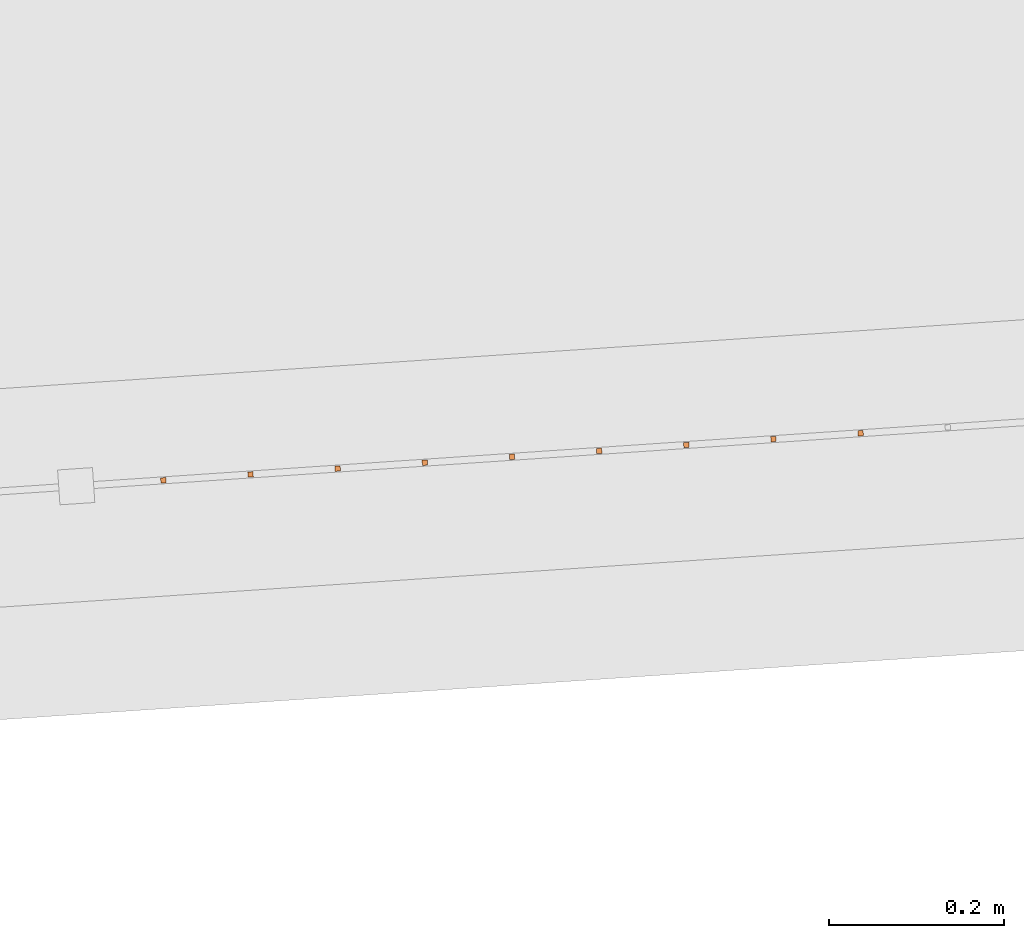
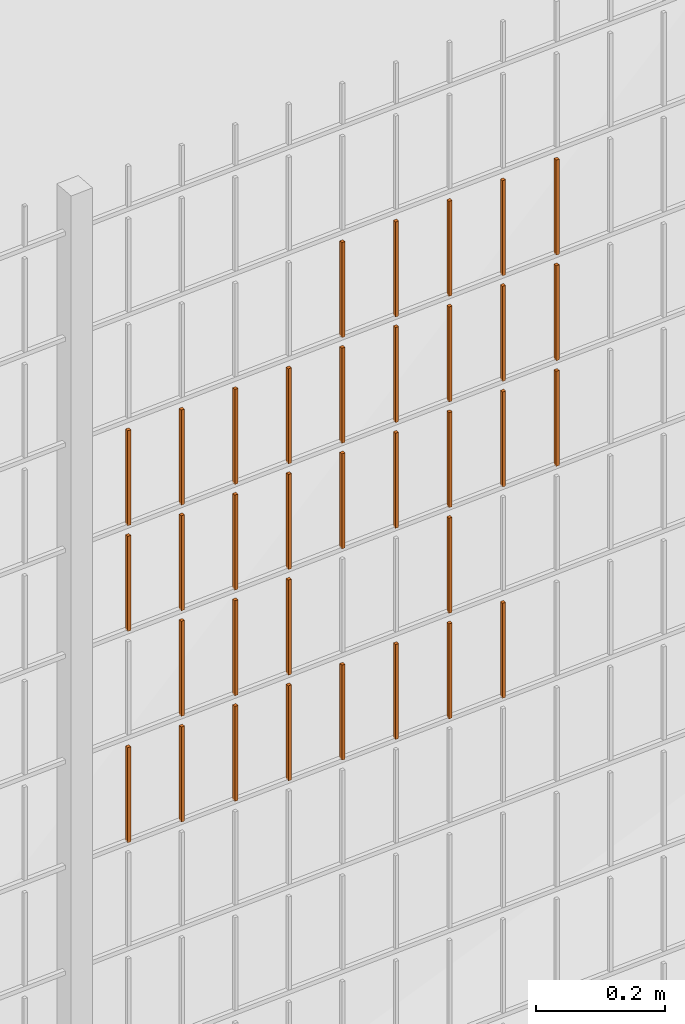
# One storey, part 69 of 1809: 35 proxies, 1 element without a shape of its own.
"""IFC2X3 building model written with IfcOpenShell, lengths in millimetres."""

import ifcopenshell
import ifcopenshell.guid

model = None  # the IFC model being written
_history = None  # IfcOwnerHistory: only IFC2X3 demands one
_inside = {}  # id of a spatial element -> (the spatial element, [elements in it])
_under = {}  # id of a project, library or spatial element -> (it, [spatial elements below it])
_declared = {}  # id of a project -> (the project, [libraries it declares])
_typed = {}  # id of a type object -> (the type object, [elements of that type])
_made_of = {}  # id of a material, layer set ... -> (it, [elements and type objects made of it])


def new_model(schema):
    """Start an empty IFC model of exactly this schema.

    Asked for "IFC4X3", IfcOpenShell would pick the latest addendum, in which some entities
    have other attributes; the version numbers below select the first issue.
    IFC2X3 requires an IfcOwnerHistory on every rooted entity: one is made here for all.
    """
    global model, _history
    if schema == "IFC4X3":
        model = ifcopenshell.file(schema_version=(4, 3, 0, 0))
    else:
        model = ifcopenshell.file(schema=schema)
    _inside.clear()
    _under.clear()
    _declared.clear()
    _typed.clear()
    _made_of.clear()
    _history = None
    if model.schema == "IFC2X3":
        org = make("IfcOrganization", Name="unknown")
        user = make(
            "IfcPersonAndOrganization",
            ThePerson=make("IfcPerson", FamilyName="unknown"),
            TheOrganization=org,
        )
        app = make(
            "IfcApplication",
            ApplicationDeveloper=org,
            Version="unknown",
            ApplicationFullName="unknown",
            ApplicationIdentifier="unknown",
        )
        _history = make(
            "IfcOwnerHistory",
            OwningUser=user,
            OwningApplication=app,
            ChangeAction="ADDED",
            CreationDate=0,
        )
    return model


def make(cls, **values):
    """One entity of the class cls with the attributes given. An attribute that is None is left unset."""
    return model.create_entity(
        cls, **{name: value for name, value in values.items() if value is not None}
    )


def entity(cls, *values):
    """Any entity or typed value of the class cls, its attributes in the order of the schema. None: left unset."""
    e = model.create_entity(cls)
    for i, value in enumerate(values):
        if value is not None:
            e[i] = value
    return e


def rooted(cls, **values):
    """An entity with a GlobalId (a new one), such as an element, a storey or a relation."""
    return make(cls, GlobalId=ifcopenshell.guid.new(), OwnerHistory=_history, **values)


def si_unit(unit_type, name, prefix=None):
    """IfcSIUnit, for example si_unit("LENGTHUNIT", "METRE", prefix="MILLI")."""
    return make("IfcSIUnit", UnitType=unit_type, Prefix=prefix, Name=name)


def converted_unit(unit_type, name, factor, base, dimensions=None, offset=None):
    """IfcConversionBasedUnit, such as the inch: factor (a typed value) times the base unit."""
    return make(
        "IfcConversionBasedUnit"
        if offset is None
        else "IfcConversionBasedUnitWithOffset",
        ConversionOffset=offset,
        Dimensions=None
        if dimensions is None
        else entity("IfcDimensionalExponents", *dimensions),
        UnitType=unit_type,
        Name=name,
        ConversionFactor=make(
            "IfcMeasureWithUnit", ValueComponent=factor, UnitComponent=base
        ),
    )


def derived_unit(unit_type, elements):
    """IfcDerivedUnit: a product of units, each with its exponent."""
    return make(
        "IfcDerivedUnit",
        Elements=[
            make("IfcDerivedUnitElement", Unit=unit, Exponent=power)
            for unit, power in elements
        ],
        UnitType=unit_type,
    )


def money_unit(currency):
    """IfcMonetaryUnit."""
    return make("IfcMonetaryUnit", Currency=currency)


def assignment(units):
    """IfcUnitAssignment: the units of a project."""
    return None if units is None else make("IfcUnitAssignment", Units=units)


def point(xyz):
    """IfcCartesianPoint."""
    return None if xyz is None else make("IfcCartesianPoint", Coordinates=xyz)


def direction(xyz):
    """IfcDirection."""
    return None if xyz is None else make("IfcDirection", DirectionRatios=xyz)


def frame(location, z_axis=None, x_axis=None):
    """IfcAxis2Placement3D, a coordinate frame: its origin and axes. An axis left out is left unset."""
    return make(
        "IfcAxis2Placement3D",
        Location=point(location),
        Axis=direction(z_axis),
        RefDirection=direction(x_axis),
    )


def origin_with_axes():
    """The frame at (0, 0, 0) with the z axis (0, 0, 1) and the x axis (1, 0, 0) written out."""
    return frame((0.0, 0.0, 0.0), z_axis=(0.0, 0.0, 1.0), x_axis=(1.0, 0.0, 0.0))


def place(relative_to, where):
    """IfcLocalPlacement: puts the frame where relative to a parent placement (None: the world)."""
    return make(
        "IfcLocalPlacement", PlacementRelTo=relative_to, RelativePlacement=where
    )


def context(
    kind, dimensions, precision=None, world=None, true_north=None, identifier=None
):
    """IfcGeometricRepresentationContext, for example the 3D "Model" context."""
    return make(
        "IfcGeometricRepresentationContext",
        ContextIdentifier=identifier,
        ContextType=kind,
        CoordinateSpaceDimension=dimensions,
        Precision=precision,
        WorldCoordinateSystem=world,
        TrueNorth=true_north,
    )


def subcontext(parent, identifier, kind, view, scale=None):
    """IfcGeometricRepresentationSubContext, for example "Body" below "Model"."""
    return make(
        "IfcGeometricRepresentationSubContext",
        ContextIdentifier=identifier,
        ContextType=kind,
        ParentContext=parent,
        TargetScale=scale,
        TargetView=view,
    )


def project(units=None, contexts=None):
    """IfcProject with its units and contexts."""
    return rooted(
        "IfcProject",
        Name="project",
        RepresentationContexts=contexts,
        UnitsInContext=assignment(units),
    )


def spatial(cls, under=None, at=None, **own):
    """A site, building, storey or space (cls), placed at a placement, below another one or the project."""
    s = rooted(cls, ObjectPlacement=at, **own)
    if under is not None:
        _under.setdefault(under.id(), (under, []))[1].append(s)
    return s


def faces_of(points, faces, orient=None, outer=None):
    """IfcFace entities. A face is a list of loops; a loop is a list of indices into points, from 0.

    orient and outer hold one flag for each loop. By default every Orientation is true, the
    first loop of a face is its IfcFaceOuterBound and the others are IfcFaceBound.
    """
    made = []
    for i, loops in enumerate(faces):
        bounds = []
        for j, loop in enumerate(loops):
            is_outer = j == 0 if outer is None else outer[i][j]
            bounds.append(
                make(
                    "IfcFaceOuterBound" if is_outer else "IfcFaceBound",
                    Bound=make("IfcPolyLoop", Polygon=[points[k] for k in loop]),
                    Orientation=True if orient is None else orient[i][j],
                )
            )
        made.append(make("IfcFace", Bounds=bounds))
    return made


def faceted_brep(points, faces, orient=None, outer=None, voids=None):
    """IfcFacetedBrep: a solid bounded by flat faces; with voids (closed shells), ...WithVoids."""
    shared = [point(p) for p in points]
    hull = make("IfcClosedShell", CfsFaces=faces_of(shared, faces, orient, outer))
    if voids is None:
        return make("IfcFacetedBrep", Outer=hull)
    return make(
        "IfcFacetedBrepWithVoids",
        Outer=hull,
        Voids=[
            make(cls, CfsFaces=faces_of(shared, fs, o, b)) for cls, fs, o, b in voids
        ],
    )


def shape(context_of_items, identifier, shape_type, items):
    """IfcShapeRepresentation: the items that make up one representation, for example the "Body"."""
    return make(
        "IfcShapeRepresentation",
        ContextOfItems=context_of_items,
        RepresentationIdentifier=identifier,
        RepresentationType=shape_type,
        Items=items,
    )


def source(mapping_origin, context_of_items, identifier, shape_type, items):
    """IfcRepresentationMap: a shape defined once, which mapped items show again and again."""
    return make(
        "IfcRepresentationMap",
        MappingOrigin=mapping_origin,
        MappedRepresentation=shape(context_of_items, identifier, shape_type, items),
    )


def transform(
    local_origin,
    x_axis=None,
    y_axis=None,
    z_axis=None,
    scale=None,
    scale2=None,
    scale3=None,
    uniform=True,
):
    """IfcCartesianTransformationOperator3D, or its non-uniform kind. x_axis, y_axis, z_axis: its Axis1, 2, 3."""
    if uniform:
        return make(
            "IfcCartesianTransformationOperator3D",
            Axis1=direction(x_axis),
            Axis2=direction(y_axis),
            LocalOrigin=point(local_origin),
            Scale=scale,
            Axis3=direction(z_axis),
        )
    return make(
        "IfcCartesianTransformationOperator3DnonUniform",
        Axis1=direction(x_axis),
        Axis2=direction(y_axis),
        LocalOrigin=point(local_origin),
        Scale=scale,
        Axis3=direction(z_axis),
        Scale2=scale2,
        Scale3=scale3,
    )


def mapped(mapping_source, mapping_target):
    """IfcMappedItem: shows the shape of a source again, moved by a transform."""
    return make(
        "IfcMappedItem", MappingSource=mapping_source, MappingTarget=mapping_target
    )


def material(Name=None, Category=None):
    """IfcMaterial."""
    return make("IfcMaterial", Name=Name, Category=Category)


def made_of(thing, what):
    """Note that an element or type object is made of a material, layer set ...; save() writes the relation."""
    if what is not None:
        _made_of.setdefault(what.id(), (what, []))[1].append(thing)
    return thing


def type_object(cls, material=None, **own):
    """A type object (cls), such as IfcWallType, which elements share."""
    return made_of(rooted(cls, **own), material)


def element(
    cls,
    number,
    at=None,
    inside=None,
    cuts=None,
    type_object=None,
    material=None,
    context=None,
    identifier="Body",
    shape_type=None,
    held_by="IfcProductDefinitionShape",
    body=None,
    shapes=None,
    **own,
):
    """One element of the class cls, such as IfcWall. Its Tag is "e" and its number.

    at: its placement. inside: the storey or other place that contains it. cuts: it is an
    opening in that element (IfcRelVoidsElement). A single representation is given by context,
    identifier, shape_type and body (its items); several are given by shapes. held_by: the class
    of the entity that holds the representations. save() writes the other relations.
    """
    e = rooted(cls, Tag="e%d" % number, ObjectPlacement=at, **own)
    if body is not None:
        shapes = [shape(context, identifier, shape_type, body)]
    if shapes is not None:
        e.Representation = make(held_by, Representations=shapes)
    if inside is not None:
        _inside.setdefault(inside.id(), (inside, []))[1].append(e)
    if cuts is not None:
        rooted(
            "IfcRelVoidsElement", RelatingBuildingElement=cuts, RelatedOpeningElement=e
        )
    if type_object is not None:
        _typed.setdefault(type_object.id(), (type_object, []))[1].append(e)
    return made_of(e, material)


def aggregate(whole, parts):
    """IfcRelAggregates: a whole, such as a stair, and the parts it consists of."""
    return rooted("IfcRelAggregates", RelatingObject=whole, RelatedObjects=parts)


def save(model, path):
    """Write the relations noted so far, then the file.

    IfcRelAggregates (storeys below a building ...), IfcRelContainedInSpatialStructure (elements
    in a storey), IfcRelDefinesByType, IfcRelAssociatesMaterial and IfcRelDeclares: one each for
    every whole, place, type object, material and project.
    """
    for whole, parts in _under.values():
        aggregate(whole, parts)
    for where, things in _inside.values():
        rooted(
            "IfcRelContainedInSpatialStructure",
            RelatedElements=things,
            RelatingStructure=where,
        )
    for kind, things in _typed.values():
        rooted("IfcRelDefinesByType", RelatedObjects=things, RelatingType=kind)
    for what, things in _made_of.values():
        rooted("IfcRelAssociatesMaterial", RelatedObjects=things, RelatingMaterial=what)
    for by, libraries in _declared.values():
        rooted("IfcRelDeclares", RelatingContext=by, RelatedDefinitions=libraries)
    model.write(path)


model = new_model("IFC2X3")

# Units and contexts
model_context = context("Model", 3, precision=0.01, world=origin_with_axes(), true_north=direction((0.0, 1.0)))
body_context = subcontext(model_context, "Body", "Model", "MODEL_VIEW")
ifc_project = project(units=[si_unit("LENGTHUNIT", "METRE", prefix="MILLI"), si_unit("AREAUNIT", "SQUARE_METRE"), si_unit("VOLUMEUNIT", "CUBIC_METRE"), converted_unit("PLANEANGLEUNIT", "DEGREE", entity("IfcPlaneAngleMeasure", 0.0174532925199), si_unit("PLANEANGLEUNIT", "RADIAN"), dimensions=[0, 0, 0, 0, 0, 0, 0]), si_unit("SOLIDANGLEUNIT", "STERADIAN"), money_unit("EUR"), converted_unit("TIMEUNIT", "Year", entity("IfcTimeMeasure", 31556926.0), si_unit("TIMEUNIT", "SECOND"), dimensions=[0, 0, 1, 0, 0, 0, 0]), si_unit("MASSUNIT", "GRAM", prefix="KILO"), si_unit("THERMODYNAMICTEMPERATUREUNIT", "DEGREE_CELSIUS"), si_unit("LUMINOUSINTENSITYUNIT", "LUMEN"), si_unit("ENERGYUNIT", "JOULE", prefix="MEGA"), derived_unit("THERMALCONDUCTANCEUNIT", [(si_unit("POWERUNIT", "WATT"), 1), (si_unit("LENGTHUNIT", "METRE"), -1), (si_unit("THERMODYNAMICTEMPERATUREUNIT", "KELVIN"), -1)]), derived_unit("SPECIFICHEATCAPACITYUNIT", [(si_unit("ENERGYUNIT", "JOULE"), 1), (si_unit("MASSUNIT", "GRAM", prefix="KILO"), -1), (si_unit("THERMODYNAMICTEMPERATUREUNIT", "KELVIN"), -1)]), derived_unit("MASSDENSITYUNIT", [(si_unit("MASSUNIT", "GRAM", prefix="KILO"), 1), (si_unit("VOLUMEUNIT", "CUBIC_METRE"), -1)])], contexts=[model_context])

# Site, building, storey
site_placement = place(None, origin_with_axes())
site = spatial("IfcSite", under=ifc_project, at=site_placement, Name="Politse- ja Piirivalveameti ning Päästeameti ühishoone", CompositionType="ELEMENT")
building_placement = place(site_placement, origin_with_axes())
building = spatial("IfcBuilding", under=site, at=building_placement, Name="Politse- ja Piirivalveameti ning Päästeameti ühishoone", CompositionType="ELEMENT")
storey_placement = place(building_placement, origin_with_axes())
storey = spatial("IfcBuildingStorey", under=building, at=storey_placement, Name="Esimene korrus", CompositionType="ELEMENT", Elevation=0.0)

# Proxies
building_element_proxy_type_1 = type_object("IfcBuildingElementProxyType", Name="Railing Type", PredefinedType="NOTDEFINED")
proxy_1_placement = place(storey_placement, frame((89252.001212, -29183.4766571, 203.661247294), z_axis=(0.0, 0.0, 1.0), x_axis=(1.0, 0.0, 0.0)))
proxy_1 = element("IfcBuildingElementProxy", 1, at=proxy_1_placement, inside=storey, type_object=building_element_proxy_type_1, Name="PIIRDEAED")
ifc_material = material(Name="ET-03_Raud")
building_element_proxy_type_2 = type_object("IfcBuildingElementProxyType", Name="IfcBuildingElementProxy", PredefinedType="NOTDEFINED")
shared_shape_1 = source(origin_with_axes(), body_context, "Body", "Brep", [
    faceted_brep([(3.0, 3.0, -0.000752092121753), (-3.0, 3.0, -0.000752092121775), (-3.0, 3.0, 179.99926046), (3.0, 3.0, 179.99926046), (3.0, -3.0, 0.000752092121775), (-3.0, -3.0, 0.000752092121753), (-3.0, -3.0, 180.000764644), (3.0, -3.0, 180.000764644)], [[[0, 1, 2, 3]], [[0, 4, 5, 1]], [[1, 5, 6, 2]], [[3, 2, 6, 7]], [[4, 0, 3, 7]], [[5, 4, 7, 6]]]),
])
proxy_2_placement = place(proxy_1_placement, frame((-106982.911336, -24524.0666834, 1200.35293642), z_axis=(0.0, 0.0, 1.0), x_axis=(1.0, 0.0, 0.0)))
proxy_2 = element("IfcBuildingElementProxy", 2, at=proxy_2_placement, type_object=building_element_proxy_type_2, material=ifc_material, Name="BALUSTER - 001", context=body_context, shape_type="MappedRepresentation", body=[
    mapped(shared_shape_1, transform((0.0, 0.0, 0.0), x_axis=(-0.0673926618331, 0.997726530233, 0.0), y_axis=(-0.997726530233, -0.0673926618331, 0.0), z_axis=(0.0, 0.0, 1.0))),
])
shared_shape_2 = source(origin_with_axes(), body_context, "Body", "Brep", [
    faceted_brep([(3.0, 3.0, -0.000752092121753), (-3.0, 3.0, -0.000752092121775), (-3.0, 3.0, 179.99926046), (3.0, 3.0, 179.99926046), (3.0, -3.0, 0.000752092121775), (-3.0, -3.0, 0.000752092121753), (-3.0, -3.0, 180.000764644), (3.0, -3.0, 180.000764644)], [[[0, 1, 2, 3]], [[0, 4, 5, 1]], [[1, 5, 6, 2]], [[3, 2, 6, 7]], [[4, 0, 3, 7]], [[5, 4, 7, 6]]]),
])
proxy_3_placement = place(proxy_1_placement, frame((-106982.911336, -24524.0666834, 1400.35293642), z_axis=(0.0, 0.0, 1.0), x_axis=(1.0, 0.0, 0.0)))
proxy_3 = element("IfcBuildingElementProxy", 3, at=proxy_3_placement, type_object=building_element_proxy_type_2, material=ifc_material, Name="BALUSTER - 001", context=body_context, shape_type="MappedRepresentation", body=[
    mapped(shared_shape_2, transform((0.0, 0.0, 0.0), x_axis=(-0.0673926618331, 0.997726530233, 0.0), y_axis=(-0.997726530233, -0.0673926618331, 0.0), z_axis=(0.0, 0.0, 1.0))),
])
shared_shape_3 = source(origin_with_axes(), body_context, "Body", "Brep", [
    faceted_brep([(3.0, 3.0, -0.000752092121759), (-3.0, 3.0, -0.000752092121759), (-3.0, 3.0, 179.99926046), (3.0, 3.0, 179.99926046), (3.0, -3.0, 0.000752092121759), (-3.0, -3.0, 0.000752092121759), (-3.0, -3.0, 180.000764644), (3.0, -3.0, 180.000764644)], [[[0, 1, 2, 3]], [[0, 4, 5, 1]], [[1, 5, 6, 2]], [[3, 2, 6, 7]], [[4, 0, 3, 7]], [[5, 4, 7, 6]]]),
])
proxy_4_placement = place(proxy_1_placement, frame((-106683.593377, -24503.8488849, 1200.42814563), z_axis=(0.0, 0.0, 1.0), x_axis=(1.0, 0.0, 0.0)))
proxy_4 = element("IfcBuildingElementProxy", 4, at=proxy_4_placement, type_object=building_element_proxy_type_2, material=ifc_material, Name="BALUSTER - 001", context=body_context, shape_type="MappedRepresentation", body=[
    mapped(shared_shape_3, transform((0.0, 0.0, 0.0), x_axis=(-0.0673926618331, 0.997726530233, 0.0), y_axis=(-0.997726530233, -0.0673926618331, 0.0), z_axis=(0.0, 0.0, 1.0))),
])
shared_shape_4 = source(origin_with_axes(), body_context, "Body", "Brep", [
    faceted_brep([(3.0, 3.0, -0.000752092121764), (-3.0, 3.0, -0.000752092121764), (-3.0, 3.0, 179.99926046), (3.0, 3.0, 179.99926046), (3.0, -3.0, 0.000752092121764), (-3.0, -3.0, 0.000752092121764), (-3.0, -3.0, 180.000764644), (3.0, -3.0, 180.000764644)], [[[0, 1, 2, 3]], [[0, 4, 5, 1]], [[1, 5, 6, 2]], [[3, 2, 6, 7]], [[4, 0, 3, 7]], [[5, 4, 7, 6]]]),
])
proxy_5_placement = place(proxy_1_placement, frame((-106583.820724, -24497.1096187, 800.453215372), z_axis=(0.0, 0.0, 1.0), x_axis=(1.0, 0.0, 0.0)))
proxy_5 = element("IfcBuildingElementProxy", 5, at=proxy_5_placement, type_object=building_element_proxy_type_2, material=ifc_material, Name="BALUSTER - 001", context=body_context, shape_type="MappedRepresentation", body=[
    mapped(shared_shape_4, transform((0.0, 0.0, 0.0), x_axis=(-0.0673926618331, 0.997726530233, 0.0), y_axis=(-0.997726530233, -0.0673926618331, 0.0), z_axis=(0.0, 0.0, 1.0))),
])
proxy_6_placement = place(proxy_1_placement, frame((-106883.138683, -24517.3274172, 800.378006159), z_axis=(0.0, 0.0, 1.0), x_axis=(1.0, 0.0, 0.0)))
proxy_6 = element("IfcBuildingElementProxy", 6, at=proxy_6_placement, type_object=building_element_proxy_type_2, material=ifc_material, Name="BALUSTER - 001", context=body_context, shape_type="MappedRepresentation", body=[
    mapped(shared_shape_4, transform((0.0, 0.0, 0.0), x_axis=(-0.0673926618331, 0.997726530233, 0.0), y_axis=(-0.997726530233, -0.0673926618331, 0.0), z_axis=(0.0, 0.0, 1.0))),
])
shared_shape_5 = source(origin_with_axes(), body_context, "Body", "Brep", [
    faceted_brep([(3.0, 3.0, -0.000752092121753), (-3.0, 3.0, -0.000752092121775), (-3.0, 3.0, 179.99926046), (3.0, 3.0, 179.99926046), (3.0, -3.0, 0.000752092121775), (-3.0, -3.0, 0.000752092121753), (-3.0, -3.0, 180.000764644), (3.0, -3.0, 180.000764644)], [[[0, 1, 2, 3]], [[0, 4, 5, 1]], [[1, 5, 6, 2]], [[3, 2, 6, 7]], [[4, 0, 3, 7]], [[5, 4, 7, 6]]]),
])
proxy_7_placement = place(proxy_1_placement, frame((-106982.911336, -24524.0666834, 800.352936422), z_axis=(0.0, 0.0, 1.0), x_axis=(1.0, 0.0, 0.0)))
proxy_7 = element("IfcBuildingElementProxy", 7, at=proxy_7_placement, type_object=building_element_proxy_type_2, material=ifc_material, Name="BALUSTER - 001", context=body_context, shape_type="MappedRepresentation", body=[
    mapped(shared_shape_5, transform((0.0, 0.0, 0.0), x_axis=(-0.0673926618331, 0.997726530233, 0.0), y_axis=(-0.997726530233, -0.0673926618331, 0.0), z_axis=(0.0, 0.0, 1.0))),
])
proxy_8_placement = place(proxy_1_placement, frame((-106883.138683, -24517.3274172, 1200.37800616), z_axis=(0.0, 0.0, 1.0), x_axis=(1.0, 0.0, 0.0)))
proxy_8 = element("IfcBuildingElementProxy", 8, at=proxy_8_placement, type_object=building_element_proxy_type_2, material=ifc_material, Name="BALUSTER - 001", context=body_context, shape_type="MappedRepresentation", body=[
    mapped(shared_shape_5, transform((0.0, 0.0, 0.0), x_axis=(-0.0673926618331, 0.997726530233, 0.0), y_axis=(-0.997726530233, -0.0673926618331, 0.0), z_axis=(0.0, 0.0, 1.0))),
])
shared_shape_6 = source(origin_with_axes(), body_context, "Body", "Brep", [
    faceted_brep([(3.0, 3.0, -0.000752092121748), (-3.0, 3.0, -0.00075209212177), (-3.0, 3.0, 179.99926046), (3.0, 3.0, 179.99926046), (3.0, -3.0, 0.00075209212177), (-3.0, -3.0, 0.000752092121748), (-3.0, -3.0, 180.000764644), (3.0, -3.0, 180.000764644)], [[[0, 1, 2, 3]], [[0, 4, 5, 1]], [[1, 5, 6, 2]], [[3, 2, 6, 7]], [[4, 0, 3, 7]], [[5, 4, 7, 6]]]),
])
proxy_9_placement = place(proxy_1_placement, frame((-106683.593377, -24503.8488849, 800.428145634), z_axis=(0.0, 0.0, 1.0), x_axis=(1.0, 0.0, 0.0)))
proxy_9 = element("IfcBuildingElementProxy", 9, at=proxy_9_placement, type_object=building_element_proxy_type_2, material=ifc_material, Name="BALUSTER - 001", context=body_context, shape_type="MappedRepresentation", body=[
    mapped(shared_shape_6, transform((0.0, 0.0, 0.0), x_axis=(-0.0673926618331, 0.997726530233, 0.0), y_axis=(-0.997726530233, -0.0673926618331, 0.0), z_axis=(0.0, 0.0, 1.0))),
])
proxy_10_placement = place(proxy_1_placement, frame((-106783.36603, -24510.5881511, 1200.4030759), z_axis=(0.0, 0.0, 1.0), x_axis=(1.0, 0.0, 0.0)))
proxy_10 = element("IfcBuildingElementProxy", 10, at=proxy_10_placement, type_object=building_element_proxy_type_2, material=ifc_material, Name="BALUSTER - 001", context=body_context, shape_type="MappedRepresentation", body=[
    mapped(shared_shape_6, transform((0.0, 0.0, 0.0), x_axis=(-0.0673926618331, 0.997726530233, 0.0), y_axis=(-0.997726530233, -0.0673926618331, 0.0), z_axis=(0.0, 0.0, 1.0))),
])
shared_shape_7 = source(origin_with_axes(), body_context, "Body", "Brep", [
    faceted_brep([(3.0, 3.0, -0.000752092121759), (-3.0, 3.0, -0.000752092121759), (-3.0, 3.0, 179.99926046), (3.0, 3.0, 179.99926046), (3.0, -3.0, 0.000752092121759), (-3.0, -3.0, 0.000752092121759), (-3.0, -3.0, 180.000764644), (3.0, -3.0, 180.000764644)], [[[0, 1, 2, 3]], [[0, 4, 5, 1]], [[1, 5, 6, 2]], [[3, 2, 6, 7]], [[4, 0, 3, 7]], [[5, 4, 7, 6]]]),
])
proxy_11_placement = place(proxy_1_placement, frame((-106184.730112, -24470.152554, 1200.55349432), z_axis=(0.0, 0.0, 1.0), x_axis=(1.0, 0.0, 0.0)))
proxy_11 = element("IfcBuildingElementProxy", 11, at=proxy_11_placement, type_object=building_element_proxy_type_2, material=ifc_material, Name="BALUSTER - 001", context=body_context, shape_type="MappedRepresentation", body=[
    mapped(shared_shape_7, transform((0.0, 0.0, 0.0), x_axis=(-0.0673926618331, 0.997726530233, 0.0), y_axis=(-0.997726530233, -0.0673926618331, 0.0), z_axis=(0.0, 0.0, 1.0))),
])
shared_shape_8 = source(origin_with_axes(), body_context, "Body", "Brep", [
    faceted_brep([(3.0, 3.0, -0.000752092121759), (-3.0, 3.0, -0.000752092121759), (-3.0, 3.0, 179.99926046), (3.0, 3.0, 179.99926046), (3.0, -3.0, 0.000752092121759), (-3.0, -3.0, 0.000752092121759), (-3.0, -3.0, 180.000764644), (3.0, -3.0, 180.000764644)], [[[0, 1, 2, 3]], [[0, 4, 5, 1]], [[1, 5, 6, 2]], [[3, 2, 6, 7]], [[4, 0, 3, 7]], [[5, 4, 7, 6]]]),
])
proxy_12_placement = place(proxy_1_placement, frame((-106184.730112, -24470.152554, 1400.55349432), z_axis=(0.0, 0.0, 1.0), x_axis=(1.0, 0.0, 0.0)))
proxy_12 = element("IfcBuildingElementProxy", 12, at=proxy_12_placement, type_object=building_element_proxy_type_2, material=ifc_material, Name="BALUSTER - 001", context=body_context, shape_type="MappedRepresentation", body=[
    mapped(shared_shape_8, transform((0.0, 0.0, 0.0), x_axis=(-0.0673926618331, 0.997726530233, 0.0), y_axis=(-0.997726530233, -0.0673926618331, 0.0), z_axis=(0.0, 0.0, 1.0))),
])
proxy_13_placement = place(proxy_1_placement, frame((-106184.730112, -24470.152554, 1600.55349432), z_axis=(0.0, 0.0, 1.0), x_axis=(1.0, 0.0, 0.0)))
proxy_13 = element("IfcBuildingElementProxy", 13, at=proxy_13_placement, type_object=building_element_proxy_type_2, material=ifc_material, Name="BALUSTER - 001", context=body_context, shape_type="MappedRepresentation", body=[
    mapped(shared_shape_8, transform((0.0, 0.0, 0.0), x_axis=(-0.0673926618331, 0.997726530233, 0.0), y_axis=(-0.997726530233, -0.0673926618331, 0.0), z_axis=(0.0, 0.0, 1.0))),
])
shared_shape_9 = source(origin_with_axes(), body_context, "Body", "Brep", [
    faceted_brep([(3.0, 3.0, -0.000752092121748), (-3.0, 3.0, -0.00075209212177), (-3.0, 3.0, 179.99926046), (3.0, 3.0, 179.99926046), (3.0, -3.0, 0.00075209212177), (-3.0, -3.0, 0.000752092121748), (-3.0, -3.0, 180.000764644), (3.0, -3.0, 180.000764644)], [[[0, 1, 2, 3]], [[0, 4, 5, 1]], [[1, 5, 6, 2]], [[3, 2, 6, 7]], [[4, 0, 3, 7]], [[5, 4, 7, 6]]]),
])
proxy_14_placement = place(proxy_1_placement, frame((-106783.36603, -24510.5881511, 1400.4030759), z_axis=(0.0, 0.0, 1.0), x_axis=(1.0, 0.0, 0.0)))
proxy_14 = element("IfcBuildingElementProxy", 14, at=proxy_14_placement, type_object=building_element_proxy_type_2, material=ifc_material, Name="BALUSTER - 001", context=body_context, shape_type="MappedRepresentation", body=[
    mapped(shared_shape_9, transform((0.0, 0.0, 0.0), x_axis=(-0.0673926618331, 0.997726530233, 0.0), y_axis=(-0.997726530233, -0.0673926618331, 0.0), z_axis=(0.0, 0.0, 1.0))),
])
shared_shape_10 = source(origin_with_axes(), body_context, "Body", "Brep", [
    faceted_brep([(3.0, 3.0, -0.000752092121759), (-3.0, 3.0, -0.000752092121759), (-3.0, 3.0, 179.99926046), (3.0, 3.0, 179.99926046), (3.0, -3.0, 0.000752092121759), (-3.0, -3.0, 0.000752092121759), (-3.0, -3.0, 180.000764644), (3.0, -3.0, 180.000764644)], [[[0, 1, 2, 3]], [[0, 4, 5, 1]], [[1, 5, 6, 2]], [[3, 2, 6, 7]], [[4, 0, 3, 7]], [[5, 4, 7, 6]]]),
])
proxy_15_placement = place(proxy_1_placement, frame((-106683.593377, -24503.8488849, 1400.42814563), z_axis=(0.0, 0.0, 1.0), x_axis=(1.0, 0.0, 0.0)))
proxy_15 = element("IfcBuildingElementProxy", 15, at=proxy_15_placement, type_object=building_element_proxy_type_2, material=ifc_material, Name="BALUSTER - 001", context=body_context, shape_type="MappedRepresentation", body=[
    mapped(shared_shape_10, transform((0.0, 0.0, 0.0), x_axis=(-0.0673926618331, 0.997726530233, 0.0), y_axis=(-0.997726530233, -0.0673926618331, 0.0), z_axis=(0.0, 0.0, 1.0))),
])
shared_shape_11 = source(origin_with_axes(), body_context, "Body", "Brep", [
    faceted_brep([(3.0, 3.0, -0.000752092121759), (-3.0, 3.0, -0.000752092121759), (-3.0, 3.0, 179.99926046), (3.0, 3.0, 179.99926046), (3.0, -3.0, 0.000752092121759), (-3.0, -3.0, 0.000752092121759), (-3.0, -3.0, 180.000764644), (3.0, -3.0, 180.000764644)], [[[0, 1, 2, 3]], [[0, 4, 5, 1]], [[1, 5, 6, 2]], [[3, 2, 6, 7]], [[4, 0, 3, 7]], [[5, 4, 7, 6]]]),
])
proxy_16_placement = place(proxy_1_placement, frame((-106583.820724, -24497.1096187, 1200.45321537), z_axis=(0.0, 0.0, 1.0), x_axis=(1.0, 0.0, 0.0)))
proxy_16 = element("IfcBuildingElementProxy", 16, at=proxy_16_placement, type_object=building_element_proxy_type_2, material=ifc_material, Name="BALUSTER - 001", context=body_context, shape_type="MappedRepresentation", body=[
    mapped(shared_shape_11, transform((0.0, 0.0, 0.0), x_axis=(-0.0673926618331, 0.997726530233, 0.0), y_axis=(-0.997726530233, -0.0673926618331, 0.0), z_axis=(0.0, 0.0, 1.0))),
])
shared_shape_12 = source(origin_with_axes(), body_context, "Body", "Brep", [
    faceted_brep([(3.0, 3.0, -0.000752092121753), (-3.0, 3.0, -0.000752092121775), (-3.0, 3.0, 179.99926046), (3.0, 3.0, 179.99926046), (3.0, -3.0, 0.000752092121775), (-3.0, -3.0, 0.000752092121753), (-3.0, -3.0, 180.000764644), (3.0, -3.0, 180.000764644)], [[[0, 1, 2, 3]], [[0, 4, 5, 1]], [[1, 5, 6, 2]], [[3, 2, 6, 7]], [[4, 0, 3, 7]], [[5, 4, 7, 6]]]),
])
proxy_17_placement = place(proxy_1_placement, frame((-106284.502765, -24476.8918201, 1200.52842458), z_axis=(0.0, 0.0, 1.0), x_axis=(1.0, 0.0, 0.0)))
proxy_17 = element("IfcBuildingElementProxy", 17, at=proxy_17_placement, type_object=building_element_proxy_type_2, material=ifc_material, Name="BALUSTER - 001", context=body_context, shape_type="MappedRepresentation", body=[
    mapped(shared_shape_12, transform((0.0, 0.0, 0.0), x_axis=(-0.0673926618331, 0.997726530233, 0.0), y_axis=(-0.997726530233, -0.0673926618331, 0.0), z_axis=(0.0, 0.0, 1.0))),
])
shared_shape_13 = source(origin_with_axes(), body_context, "Body", "Brep", [
    faceted_brep([(3.0, 3.0, -0.000752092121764), (-3.0, 3.0, -0.000752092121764), (-3.0, 3.0, 179.99926046), (3.0, 3.0, 179.99926046), (3.0, -3.0, 0.000752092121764), (-3.0, -3.0, 0.000752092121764), (-3.0, -3.0, 180.000764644), (3.0, -3.0, 180.000764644)], [[[0, 1, 2, 3]], [[0, 4, 5, 1]], [[1, 5, 6, 2]], [[3, 2, 6, 7]], [[4, 0, 3, 7]], [[5, 4, 7, 6]]]),
])
proxy_18_placement = place(proxy_1_placement, frame((-106783.36603, -24510.5881511, 800.403075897), z_axis=(0.0, 0.0, 1.0), x_axis=(1.0, 0.0, 0.0)))
proxy_18 = element("IfcBuildingElementProxy", 18, at=proxy_18_placement, type_object=building_element_proxy_type_2, material=ifc_material, Name="BALUSTER - 001", context=body_context, shape_type="MappedRepresentation", body=[
    mapped(shared_shape_13, transform((0.0, 0.0, 0.0), x_axis=(-0.0673926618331, 0.997726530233, 0.0), y_axis=(-0.997726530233, -0.0673926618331, 0.0), z_axis=(0.0, 0.0, 1.0))),
])
shared_shape_14 = source(origin_with_axes(), body_context, "Body", "Brep", [
    faceted_brep([(3.0, 3.0, -0.000752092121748), (-3.0, 3.0, -0.00075209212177), (-3.0, 3.0, 179.99926046), (3.0, 3.0, 179.99926046), (3.0, -3.0, 0.00075209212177), (-3.0, -3.0, 0.000752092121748), (-3.0, -3.0, 180.000764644), (3.0, -3.0, 180.000764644)], [[[0, 1, 2, 3]], [[0, 4, 5, 1]], [[1, 5, 6, 2]], [[3, 2, 6, 7]], [[4, 0, 3, 7]], [[5, 4, 7, 6]]]),
])
proxy_19_placement = place(proxy_1_placement, frame((-106484.048071, -24490.3703525, 1200.47828511), z_axis=(0.0, 0.0, 1.0), x_axis=(1.0, 0.0, 0.0)))
proxy_19 = element("IfcBuildingElementProxy", 19, at=proxy_19_placement, type_object=building_element_proxy_type_2, material=ifc_material, Name="BALUSTER - 001", context=body_context, shape_type="MappedRepresentation", body=[
    mapped(shared_shape_14, transform((0.0, 0.0, 0.0), x_axis=(-0.0673926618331, 0.997726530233, 0.0), y_axis=(-0.997726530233, -0.0673926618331, 0.0), z_axis=(0.0, 0.0, 1.0))),
])
shared_shape_15 = source(origin_with_axes(), body_context, "Body", "Brep", [
    faceted_brep([(3.0, 3.0, -0.000752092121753), (-3.0, 3.0, -0.000752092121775), (-3.0, 3.0, 179.99926046), (3.0, 3.0, 179.99926046), (3.0, -3.0, 0.000752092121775), (-3.0, -3.0, 0.000752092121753), (-3.0, -3.0, 180.000764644), (3.0, -3.0, 180.000764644)], [[[0, 1, 2, 3]], [[0, 4, 5, 1]], [[1, 5, 6, 2]], [[3, 2, 6, 7]], [[4, 0, 3, 7]], [[5, 4, 7, 6]]]),
])
proxy_20_placement = place(proxy_1_placement, frame((-106384.275418, -24483.6310863, 800.503354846), z_axis=(0.0, 0.0, 1.0), x_axis=(1.0, 0.0, 0.0)))
proxy_20 = element("IfcBuildingElementProxy", 20, at=proxy_20_placement, type_object=building_element_proxy_type_2, material=ifc_material, Name="BALUSTER - 001", context=body_context, shape_type="MappedRepresentation", body=[
    mapped(shared_shape_15, transform((0.0, 0.0, 0.0), x_axis=(-0.0673926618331, 0.997726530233, 0.0), y_axis=(-0.997726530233, -0.0673926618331, 0.0), z_axis=(0.0, 0.0, 1.0))),
])
proxy_21_placement = place(proxy_1_placement, frame((-106384.275418, -24483.6310863, 1200.50335485), z_axis=(0.0, 0.0, 1.0), x_axis=(1.0, 0.0, 0.0)))
proxy_21 = element("IfcBuildingElementProxy", 21, at=proxy_21_placement, type_object=building_element_proxy_type_2, material=ifc_material, Name="BALUSTER - 001", context=body_context, shape_type="MappedRepresentation", body=[
    mapped(shared_shape_15, transform((0.0, 0.0, 0.0), x_axis=(-0.0673926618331, 0.997726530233, 0.0), y_axis=(-0.997726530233, -0.0673926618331, 0.0), z_axis=(0.0, 0.0, 1.0))),
])
shared_shape_16 = source(origin_with_axes(), body_context, "Body", "Brep", [
    faceted_brep([(3.0, 3.0, -0.000752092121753), (-3.0, 3.0, -0.000752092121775), (-3.0, 3.0, 179.99926046), (3.0, 3.0, 179.99926046), (3.0, -3.0, 0.000752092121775), (-3.0, -3.0, 0.000752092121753), (-3.0, -3.0, 180.000764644), (3.0, -3.0, 180.000764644)], [[[0, 1, 2, 3]], [[0, 4, 5, 1]], [[1, 5, 6, 2]], [[3, 2, 6, 7]], [[4, 0, 3, 7]], [[5, 4, 7, 6]]]),
])
proxy_22_placement = place(proxy_1_placement, frame((-106284.502765, -24476.8918201, 800.528424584), z_axis=(0.0, 0.0, 1.0), x_axis=(1.0, 0.0, 0.0)))
proxy_22 = element("IfcBuildingElementProxy", 22, at=proxy_22_placement, type_object=building_element_proxy_type_2, material=ifc_material, Name="BALUSTER - 001", context=body_context, shape_type="MappedRepresentation", body=[
    mapped(shared_shape_16, transform((0.0, 0.0, 0.0), x_axis=(-0.0673926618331, 0.997726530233, 0.0), y_axis=(-0.997726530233, -0.0673926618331, 0.0), z_axis=(0.0, 0.0, 1.0))),
])
shared_shape_17 = source(origin_with_axes(), body_context, "Body", "Brep", [
    faceted_brep([(3.0, 3.0, -0.000752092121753), (-3.0, 3.0, -0.000752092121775), (-3.0, 3.0, 179.99926046), (3.0, 3.0, 179.99926046), (3.0, -3.0, 0.000752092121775), (-3.0, -3.0, 0.000752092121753), (-3.0, -3.0, 180.000764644), (3.0, -3.0, 180.000764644)], [[[0, 1, 2, 3]], [[0, 4, 5, 1]], [[1, 5, 6, 2]], [[3, 2, 6, 7]], [[4, 0, 3, 7]], [[5, 4, 7, 6]]]),
])
proxy_23_placement = place(proxy_1_placement, frame((-106384.275418, -24483.6310863, 1400.50335485), z_axis=(0.0, 0.0, 1.0), x_axis=(1.0, 0.0, 0.0)))
proxy_23 = element("IfcBuildingElementProxy", 23, at=proxy_23_placement, type_object=building_element_proxy_type_2, material=ifc_material, Name="BALUSTER - 001", context=body_context, shape_type="MappedRepresentation", body=[
    mapped(shared_shape_17, transform((0.0, 0.0, 0.0), x_axis=(-0.0673926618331, 0.997726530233, 0.0), y_axis=(-0.997726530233, -0.0673926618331, 0.0), z_axis=(0.0, 0.0, 1.0))),
])
proxy_24_placement = place(proxy_1_placement, frame((-106384.275418, -24483.6310863, 1600.50335485), z_axis=(0.0, 0.0, 1.0), x_axis=(1.0, 0.0, 0.0)))
proxy_24 = element("IfcBuildingElementProxy", 24, at=proxy_24_placement, type_object=building_element_proxy_type_2, material=ifc_material, Name="BALUSTER - 001", context=body_context, shape_type="MappedRepresentation", body=[
    mapped(shared_shape_17, transform((0.0, 0.0, 0.0), x_axis=(-0.0673926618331, 0.997726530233, 0.0), y_axis=(-0.997726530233, -0.0673926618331, 0.0), z_axis=(0.0, 0.0, 1.0))),
])
shared_shape_18 = source(origin_with_axes(), body_context, "Body", "Brep", [
    faceted_brep([(3.0, 3.0, -0.000752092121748), (-3.0, 3.0, -0.00075209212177), (-3.0, 3.0, 179.99926046), (3.0, 3.0, 179.99926046), (3.0, -3.0, 0.00075209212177), (-3.0, -3.0, 0.000752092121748), (-3.0, -3.0, 180.000764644), (3.0, -3.0, 180.000764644)], [[[0, 1, 2, 3]], [[0, 4, 5, 1]], [[1, 5, 6, 2]], [[3, 2, 6, 7]], [[4, 0, 3, 7]], [[5, 4, 7, 6]]]),
])
proxy_25_placement = place(proxy_1_placement, frame((-106484.048071, -24490.3703525, 800.478285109), z_axis=(0.0, 0.0, 1.0), x_axis=(1.0, 0.0, 0.0)))
proxy_25 = element("IfcBuildingElementProxy", 25, at=proxy_25_placement, type_object=building_element_proxy_type_2, material=ifc_material, Name="BALUSTER - 001", context=body_context, shape_type="MappedRepresentation", body=[
    mapped(shared_shape_18, transform((0.0, 0.0, 0.0), x_axis=(-0.0673926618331, 0.997726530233, 0.0), y_axis=(-0.997726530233, -0.0673926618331, 0.0), z_axis=(0.0, 0.0, 1.0))),
])
shared_shape_19 = source(origin_with_axes(), body_context, "Body", "Brep", [
    faceted_brep([(3.0, 3.0, -0.000752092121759), (-3.0, 3.0, -0.000752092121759), (-3.0, 3.0, 179.99926046), (3.0, 3.0, 179.99926046), (3.0, -3.0, 0.000752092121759), (-3.0, -3.0, 0.000752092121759), (-3.0, -3.0, 180.000764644), (3.0, -3.0, 180.000764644)], [[[0, 1, 2, 3]], [[0, 4, 5, 1]], [[1, 5, 6, 2]], [[3, 2, 6, 7]], [[4, 0, 3, 7]], [[5, 4, 7, 6]]]),
])
proxy_26_placement = place(proxy_1_placement, frame((-106583.820724, -24497.1096187, 1400.45321537), z_axis=(0.0, 0.0, 1.0), x_axis=(1.0, 0.0, 0.0)))
proxy_26 = element("IfcBuildingElementProxy", 26, at=proxy_26_placement, type_object=building_element_proxy_type_2, material=ifc_material, Name="BALUSTER - 001", context=body_context, shape_type="MappedRepresentation", body=[
    mapped(shared_shape_19, transform((0.0, 0.0, 0.0), x_axis=(-0.0673926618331, 0.997726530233, 0.0), y_axis=(-0.997726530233, -0.0673926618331, 0.0), z_axis=(0.0, 0.0, 1.0))),
])
proxy_27_placement = place(proxy_1_placement, frame((-106583.820724, -24497.1096187, 1600.45321537), z_axis=(0.0, 0.0, 1.0), x_axis=(1.0, 0.0, 0.0)))
proxy_27 = element("IfcBuildingElementProxy", 27, at=proxy_27_placement, type_object=building_element_proxy_type_2, material=ifc_material, Name="BALUSTER - 001", context=body_context, shape_type="MappedRepresentation", body=[
    mapped(shared_shape_19, transform((0.0, 0.0, 0.0), x_axis=(-0.0673926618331, 0.997726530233, 0.0), y_axis=(-0.997726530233, -0.0673926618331, 0.0), z_axis=(0.0, 0.0, 1.0))),
])
shared_shape_20 = source(origin_with_axes(), body_context, "Body", "Brep", [
    faceted_brep([(3.0, 3.0, -0.000752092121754), (-3.0, 3.0, -0.000752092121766), (-3.00000000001, 3.00000000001, 179.99926046), (2.99999999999, 3.00000000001, 179.99926046), (3.0, -3.0, 0.000752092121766), (-3.0, -3.0, 0.000752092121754), (-3.00000000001, -2.99999999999, 180.000764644), (2.99999999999, -2.99999999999, 180.000764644)], [[[0, 1, 2, 3]], [[0, 4, 5, 1]], [[1, 5, 6, 2]], [[3, 2, 6, 7]], [[4, 0, 3, 7]], [[5, 4, 7, 6]]]),
])
proxy_28_placement = place(proxy_1_placement, frame((-106384.275418, -24483.6310863, 1000.50335485), z_axis=(0.0, 0.0, 1.0), x_axis=(1.0, 0.0, 0.0)))
proxy_28 = element("IfcBuildingElementProxy", 28, at=proxy_28_placement, type_object=building_element_proxy_type_2, material=ifc_material, Name="BALUSTER - 001", context=body_context, shape_type="MappedRepresentation", body=[
    mapped(shared_shape_20, transform((0.0, 0.0, 0.0), x_axis=(-0.0673926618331, 0.997726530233, 0.0), y_axis=(-0.997726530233, -0.0673926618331, 0.0), z_axis=(0.0, 0.0, 1.0))),
])
shared_shape_21 = source(origin_with_axes(), body_context, "Body", "Brep", [
    faceted_brep([(3.0, 3.0, -0.000752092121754), (-3.0, 3.0, -0.000752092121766), (-3.00000000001, 3.00000000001, 179.99926046), (2.99999999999, 3.00000000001, 179.99926046), (3.0, -3.0, 0.000752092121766), (-3.0, -3.0, 0.000752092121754), (-3.00000000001, -2.99999999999, 180.000764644), (2.99999999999, -2.99999999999, 180.000764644)], [[[0, 1, 2, 3]], [[0, 4, 5, 1]], [[1, 5, 6, 2]], [[3, 2, 6, 7]], [[4, 0, 3, 7]], [[5, 4, 7, 6]]]),
])
proxy_29_placement = place(proxy_1_placement, frame((-106883.138683, -24517.3274172, 1000.37800616), z_axis=(0.0, 0.0, 1.0), x_axis=(1.0, 0.0, 0.0)))
proxy_29 = element("IfcBuildingElementProxy", 29, at=proxy_29_placement, type_object=building_element_proxy_type_2, material=ifc_material, Name="BALUSTER - 001", context=body_context, shape_type="MappedRepresentation", body=[
    mapped(shared_shape_21, transform((0.0, 0.0, 0.0), x_axis=(-0.0673926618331, 0.997726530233, 0.0), y_axis=(-0.997726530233, -0.0673926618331, 0.0), z_axis=(0.0, 0.0, 1.0))),
])
shared_shape_22 = source(origin_with_axes(), body_context, "Body", "Brep", [
    faceted_brep([(3.0, 3.0, -0.000752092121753), (-3.0, 3.0, -0.000752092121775), (-3.0, 3.0, 179.99926046), (3.0, 3.0, 179.99926046), (3.0, -3.0, 0.000752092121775), (-3.0, -3.0, 0.000752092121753), (-3.0, -3.0, 180.000764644), (3.0, -3.0, 180.000764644)], [[[0, 1, 2, 3]], [[0, 4, 5, 1]], [[1, 5, 6, 2]], [[3, 2, 6, 7]], [[4, 0, 3, 7]], [[5, 4, 7, 6]]]),
])
proxy_30_placement = place(proxy_1_placement, frame((-106284.502765, -24476.8918201, 1400.52842458), z_axis=(0.0, 0.0, 1.0), x_axis=(1.0, 0.0, 0.0)))
proxy_30 = element("IfcBuildingElementProxy", 30, at=proxy_30_placement, type_object=building_element_proxy_type_2, material=ifc_material, Name="BALUSTER - 001", context=body_context, shape_type="MappedRepresentation", body=[
    mapped(shared_shape_22, transform((0.0, 0.0, 0.0), x_axis=(-0.0673926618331, 0.997726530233, 0.0), y_axis=(-0.997726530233, -0.0673926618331, 0.0), z_axis=(0.0, 0.0, 1.0))),
])
proxy_31_placement = place(proxy_1_placement, frame((-106284.502765, -24476.8918201, 1600.52842458), z_axis=(0.0, 0.0, 1.0), x_axis=(1.0, 0.0, 0.0)))
proxy_31 = element("IfcBuildingElementProxy", 31, at=proxy_31_placement, type_object=building_element_proxy_type_2, material=ifc_material, Name="BALUSTER - 001", context=body_context, shape_type="MappedRepresentation", body=[
    mapped(shared_shape_22, transform((0.0, 0.0, 0.0), x_axis=(-0.0673926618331, 0.997726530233, 0.0), y_axis=(-0.997726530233, -0.0673926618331, 0.0), z_axis=(0.0, 0.0, 1.0))),
])
shared_shape_23 = source(origin_with_axes(), body_context, "Body", "Brep", [
    faceted_brep([(3.0, 3.0, -0.000752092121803), (-3.0, 3.0, -0.000752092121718), (-3.0, 3.00000000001, 179.99926046), (3.0, 3.00000000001, 179.99926046), (3.0, -3.0, 0.000752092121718), (-3.0, -3.0, 0.000752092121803), (-3.0, -2.99999999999, 180.000764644), (3.0, -2.99999999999, 180.000764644)], [[[0, 1, 2, 3]], [[0, 4, 5, 1]], [[1, 5, 6, 2]], [[3, 2, 6, 7]], [[4, 0, 3, 7]], [[5, 4, 7, 6]]]),
])
proxy_32_placement = place(proxy_1_placement, frame((-106683.593377, -24503.8488849, 1000.42814563), z_axis=(0.0, 0.0, 1.0), x_axis=(1.0, 0.0, 0.0)))
proxy_32 = element("IfcBuildingElementProxy", 32, at=proxy_32_placement, type_object=building_element_proxy_type_2, material=ifc_material, Name="BALUSTER - 001", context=body_context, shape_type="MappedRepresentation", body=[
    mapped(shared_shape_23, transform((0.0, 0.0, 0.0), x_axis=(-0.0673926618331, 0.997726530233, 0.0), y_axis=(-0.997726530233, -0.0673926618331, 0.0), z_axis=(0.0, 0.0, 1.0))),
])
proxy_33_placement = place(proxy_1_placement, frame((-106783.36603, -24510.5881511, 1000.4030759), z_axis=(0.0, 0.0, 1.0), x_axis=(1.0, 0.0, 0.0)))
proxy_33 = element("IfcBuildingElementProxy", 33, at=proxy_33_placement, type_object=building_element_proxy_type_2, material=ifc_material, Name="BALUSTER - 001", context=body_context, shape_type="MappedRepresentation", body=[
    mapped(shared_shape_23, transform((0.0, 0.0, 0.0), x_axis=(-0.0673926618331, 0.997726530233, 0.0), y_axis=(-0.997726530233, -0.0673926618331, 0.0), z_axis=(0.0, 0.0, 1.0))),
])
shared_shape_24 = source(origin_with_axes(), body_context, "Body", "Brep", [
    faceted_brep([(3.0, 3.0, -0.000752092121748), (-3.0, 3.0, -0.00075209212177), (-3.0, 3.0, 179.99926046), (3.0, 3.0, 179.99926046), (3.0, -3.0, 0.00075209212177), (-3.0, -3.0, 0.000752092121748), (-3.0, -3.0, 180.000764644), (3.0, -3.0, 180.000764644)], [[[0, 1, 2, 3]], [[0, 4, 5, 1]], [[1, 5, 6, 2]], [[3, 2, 6, 7]], [[4, 0, 3, 7]], [[5, 4, 7, 6]]]),
])
proxy_34_placement = place(proxy_1_placement, frame((-106484.048071, -24490.3703525, 1400.47828511), z_axis=(0.0, 0.0, 1.0), x_axis=(1.0, 0.0, 0.0)))
proxy_34 = element("IfcBuildingElementProxy", 34, at=proxy_34_placement, type_object=building_element_proxy_type_2, material=ifc_material, Name="BALUSTER - 001", context=body_context, shape_type="MappedRepresentation", body=[
    mapped(shared_shape_24, transform((0.0, 0.0, 0.0), x_axis=(-0.0673926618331, 0.997726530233, 0.0), y_axis=(-0.997726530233, -0.0673926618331, 0.0), z_axis=(0.0, 0.0, 1.0))),
])
proxy_35_placement = place(proxy_1_placement, frame((-106484.048071, -24490.3703525, 1600.47828511), z_axis=(0.0, 0.0, 1.0), x_axis=(1.0, 0.0, 0.0)))
proxy_35 = element("IfcBuildingElementProxy", 35, at=proxy_35_placement, type_object=building_element_proxy_type_2, material=ifc_material, Name="BALUSTER - 001", context=body_context, shape_type="MappedRepresentation", body=[
    mapped(shared_shape_24, transform((0.0, 0.0, 0.0), x_axis=(-0.0673926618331, 0.997726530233, 0.0), y_axis=(-0.997726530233, -0.0673926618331, 0.0), z_axis=(0.0, 0.0, 1.0))),
])
shared_shape_25 = source(origin_with_axes(), body_context, "Body", "Brep", [
    faceted_brep([(3.0, 3.0, -0.000752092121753), (-3.0, 3.0, -0.000752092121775), (-3.0, 3.0, 179.99926046), (3.0, 3.0, 179.99926046), (3.0, -3.0, 0.000752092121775), (-3.0, -3.0, 0.000752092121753), (-3.0, -3.0, 180.000764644), (3.0, -3.0, 180.000764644)], [[[0, 1, 2, 3]], [[0, 4, 5, 1]], [[1, 5, 6, 2]], [[3, 2, 6, 7]], [[4, 0, 3, 7]], [[5, 4, 7, 6]]]),
])
proxy_36_placement = place(proxy_1_placement, frame((-106883.138683, -24517.3274172, 1400.37800616), z_axis=(0.0, 0.0, 1.0), x_axis=(1.0, 0.0, 0.0)))
proxy_36 = element("IfcBuildingElementProxy", 36, at=proxy_36_placement, type_object=building_element_proxy_type_2, material=ifc_material, Name="BALUSTER - 001", context=body_context, shape_type="MappedRepresentation", body=[
    mapped(shared_shape_25, transform((0.0, 0.0, 0.0), x_axis=(-0.0673926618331, 0.997726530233, 0.0), y_axis=(-0.997726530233, -0.0673926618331, 0.0), z_axis=(0.0, 0.0, 1.0))),
])
aggregate(proxy_1, [proxy_22, proxy_20, proxy_25, proxy_5, proxy_9, proxy_18, proxy_6, proxy_7, proxy_28, proxy_32, proxy_33, proxy_29, proxy_11, proxy_17, proxy_21, proxy_19, proxy_16, proxy_4, proxy_10, proxy_8, proxy_2, proxy_12, proxy_30, proxy_23, proxy_34, proxy_26, proxy_15, proxy_14, proxy_36, proxy_3, proxy_13, proxy_31, proxy_24, proxy_35, proxy_27])

save(model, "model.ifc")
